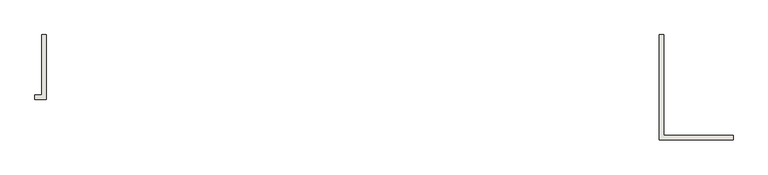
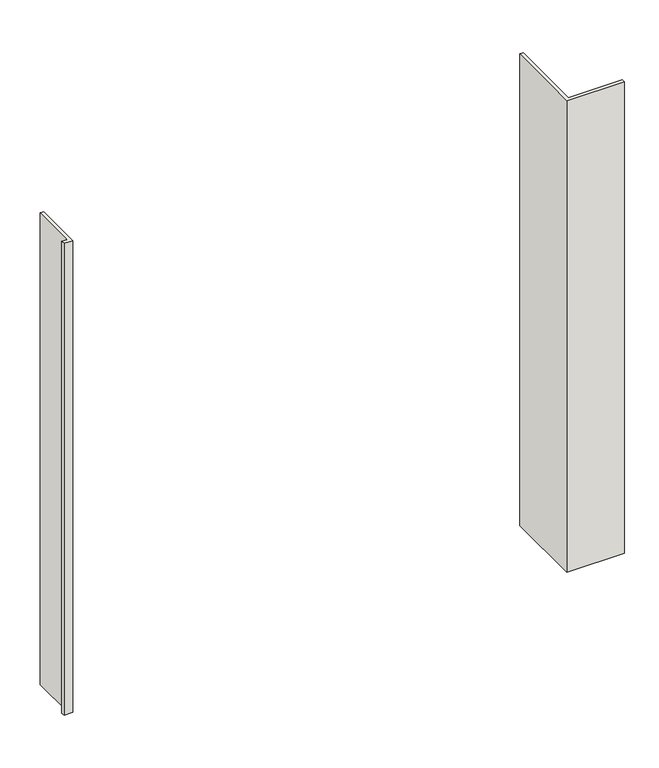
"""IFC4 building model written with IfcOpenShell, lengths in millimetres: wall geometry, 柱木牆 : 柱木牆."""

from ifc_helpers import new_model, si_unit, frame, origin, place, context, project, spatial, polyline, outline, extrude, source, transform, mapped, element, save


def wall_cee839fa(model_context):
    return source(origin(), model_context, "Body", "SweptSolid", [
        extrude(outline(polyline([(2045.4977464, 868.967972), (2355.4977464, 868.967972), (2355.4977464, 848.967972), (2025.4977464, 848.967972), (2025.4977464, 1318.967972), (2045.4977464, 1318.967972), (2045.4977464, 868.967972)])), frame((0.0, 0.0, 300.0), z_axis=(0.0, 0.0, 1.0), x_axis=(1.0, 0.0, 0.0)), (0.0, 0.0, 1.0), 2870.0),
        extrude(outline(polyline([(-736.8833533, 1048.967972), (-736.8833533, 1318.967972), (-716.8833533, 1318.967972), (-716.8833533, 1028.967972), (-766.8833533, 1028.967972), (-766.8833533, 1048.967972), (-736.8833533, 1048.967972)])), frame((0.0, 0.0, 300.0), z_axis=(0.0, 0.0, 1.0), x_axis=(1.0, 0.0, 0.0)), (0.0, 0.0, 1.0), 2870.0),
    ])


if __name__ == "__main__":
    model = new_model("IFC4")
    model_context = context("Model", 3, world=origin())
    ifc_project = project(units=[si_unit("LENGTHUNIT", "METRE", prefix="MILLI")], contexts=[model_context])
    site = spatial("IfcSite", under=ifc_project)
    building = spatial("IfcBuilding", under=site)
    placement = place(None, origin())
    wall_shape = wall_cee839fa(model_context)
    element("IfcWall", 1, ObjectType="柱木牆 : 柱木牆", at=placement, inside=building, context=model_context, shape_type="MappedRepresentation", body=[
        mapped(wall_shape, transform((0.0, 0.0, 0.0), x_axis=(1.0, 0.0, 0.0), y_axis=(0.0, 1.0, 0.0), z_axis=(0.0, 0.0, 1.0))),
    ])
    save(model, "model.ifc")
